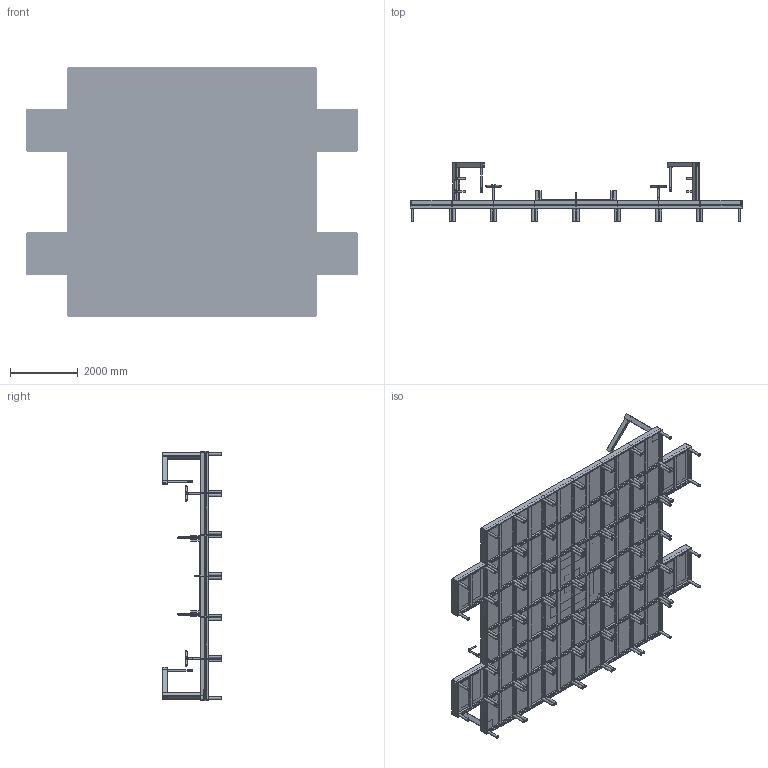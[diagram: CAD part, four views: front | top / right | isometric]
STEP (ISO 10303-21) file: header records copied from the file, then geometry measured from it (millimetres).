
FILE_DESCRIPTION(/* description */ (''),/* implementation_level */ '2;1');
FILE_NAME(/* name */ 'Taktik 2025_V1.1.stp',/* time_stamp */ '2024-10-29T20:06:18-04:00',/* author */ ('nicks'),/* organization */ ('CRC Robotique'),/* preprocessor_version */ 'ST-DEVELOPER v20',/* originating_system */ 'Autodesk Inventor 2024',/* authorisation */ '');
FILE_SCHEMA (('AUTOMOTIVE_DESIGN { 1 0 10303 214 3 1 1 }'));
Length unit declared in the file: inch
Products named in the file (41): Taktik 2025_V1.1; 2025 Playing Field; PL-Plancher_Terrain; FIELD_BORDER; Yellow_Starting_zone; Blue_Starting_zone v2; Upside Down Peg; 2 X 6 X 48; 2 X 4 X 42.5; 2 X 6 X 48_1; 2 X 6 X 48_2; PLYWOOD 5.5 X 48 X 0.5; PLYWOOD 12 X 12 X 0.5; ABS 1.5 X 29.5L; Mécanisme Inversé; Horizontal Dispenser_Yellow; Horizontal Dispenser_Blue; 1608T154_Drain, Waste and Vent ABS Pipe Fitting; 1608T124_Drain, Waste and Vent ABS Pipe Fitting; ABS 1.5 X 10L; Post Short; ABS 1.5 X 6L; Post; ABS 1.5 X 12L; Static Scale; 1608T172_Drain, Waste and Vent ABS Pipe Fitting; 1608T155_Drain, Waste and Vent ABS Pipe Fitting; ABS 2 X 18L; ABS 2 X 10L; Curling; Curling Floor 1; Curling Floor 2; Curling Floor 3; Curling Floor 4; 2 X 4 X 16; 2 X 4 X 81; Center Post; 1608T173_Drain, Waste and Vent ABS Pipe Fitting; 2389K91_Aboveground PVC Fitting for Drain, Waste and Vent; Curling Center Post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
Assembly tree (150 placements, depth 3):
  Taktik 2025_V1.1
    2025 Playing Field
      PL-Plancher_Terrain  x40
      FIELD_BORDER  x32
      Yellow_Starting_zone  x2
      Blue_Starting_zone v2  x2
    Upside Down Peg  x2
      2 X 6 X 48
      2 X 4 X 42.5
      2 X 6 X 48_1
      2 X 6 X 48_2
      PLYWOOD 5.5 X 48 X 0.5
      PLYWOOD 12 X 12 X 0.5
      ABS 1.5 X 29.5L
      Mécanisme Inversé
    Horizontal Dispenser_Blue  x2
      1608T173_Drain, Waste and Vent ABS Pipe Fitting
      1608T154_Drain, Waste and Vent ABS Pipe Fitting
      1608T124_Drain, Waste and Vent ABS Pipe Fitting
      ABS 1.5 X 12L
      ABS 1.5 X 10L
      2389K91_Aboveground PVC Fitting for Drain, Waste and Vent
    Horizontal Dispenser_Yellow  x2
      1608T173_Drain, Waste and Vent ABS Pipe Fitting
      1608T154_Drain, Waste and Vent ABS Pipe Fitting
      1608T124_Drain, Waste and Vent ABS Pipe Fitting
      ABS 1.5 X 12L
      ABS 1.5 X 10L
      2389K91_Aboveground PVC Fitting for Drain, Waste and Vent
    Post Short  x2
      1608T173_Drain, Waste and Vent ABS Pipe Fitting
      ABS 1.5 X 6L
      2389K91_Aboveground PVC Fitting for Drain, Waste and Vent
    Post  x2
      1608T173_Drain, Waste and Vent ABS Pipe Fitting
      ABS 1.5 X 12L
      2389K91_Aboveground PVC Fitting for Drain, Waste and Vent
    Static Scale  x2
      2389K91_Aboveground PVC Fitting for Drain, Waste and Vent
      1608T172_Drain, Waste and Vent ABS Pipe Fitting
      1608T155_Drain, Waste and Vent ABS Pipe Fitting
      ABS 2 X 18L
      ABS 2 X 10L
    Curling
      Curling Floor 1
      Curling Floor 2
      Curling Floor 3
      Curling Floor 4
      2 X 4 X 16  x8
      2 X 4 X 81  x4
    Center Post
      1608T173_Drain, Waste and Vent ABS Pipe Fitting
      2389K91_Aboveground PVC Fitting for Drain, Waste and Vent
      Curling Center Post
      ABS 1.5 X 2L
Bounding box: 9804.4 x 1746.25 x 7366 mm (x, y, z)
Volume: 2392438736.6 mm3; surface area: 264188883.1 mm2
Topology: 382 solids, 382 shells, 5558 faces, 12643 edges, 7883 vertices
Faces by surface type: plane 3010, cylinder 1466, torus 331, bspline 290, sphere 279, cone 182
Full cylindrical faces by diameter (mm): 6.35 x44, 22.225 x1, 25.4 x3, 34.337 x6, 36.338 x2, 38.1 x1, 38.507 x6, 40.094 x8, 40.894 x40, 48.26 x23, 48.514 x9, 49.022 x8, 49.219 x2, 52.502 x12, 56.642 x29, 60.325 x6, 60.579 x2, 60.63 x4, 68.707 x8, 71.12 x2, 76.2 x160, 77.724 x11, 88.9 x11, 89.281 x11, 100.457 x11, 114.681 x11, 127.381 x11
Entity records: 28817 total; most frequent: CARTESIAN_POINT 9840, DIRECTION 3942, ORIENTED_EDGE 3268, EDGE_CURVE 1634, AXIS2_PLACEMENT_3D 1577, VERTEX_POINT 1000, EDGE_LOOP 796, LINE 788
